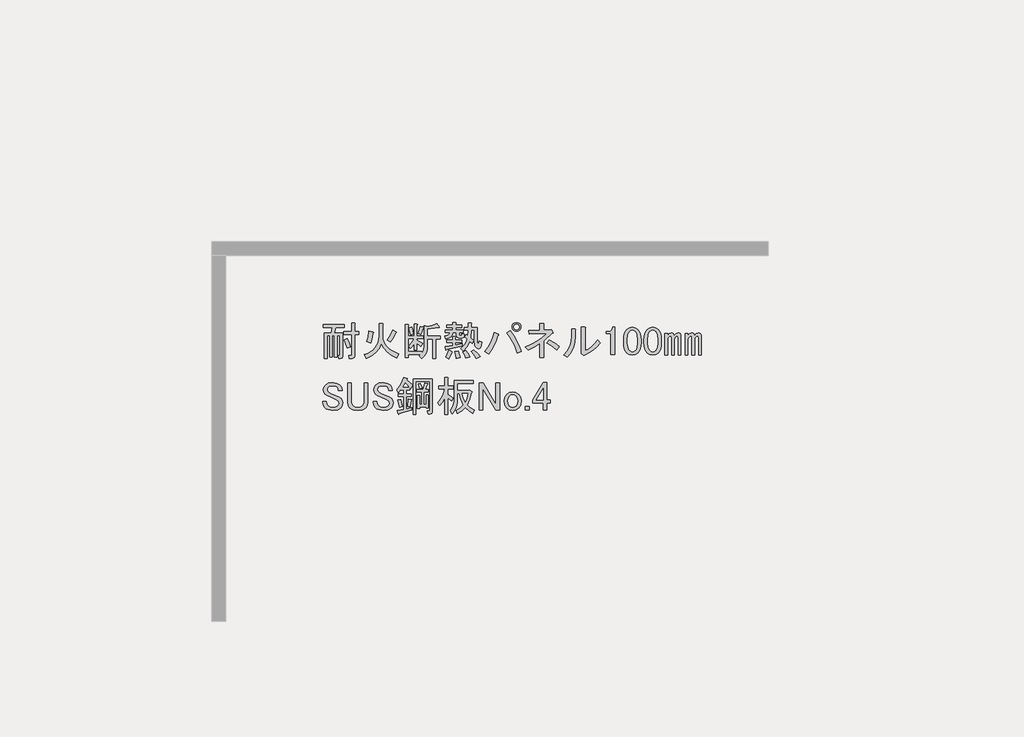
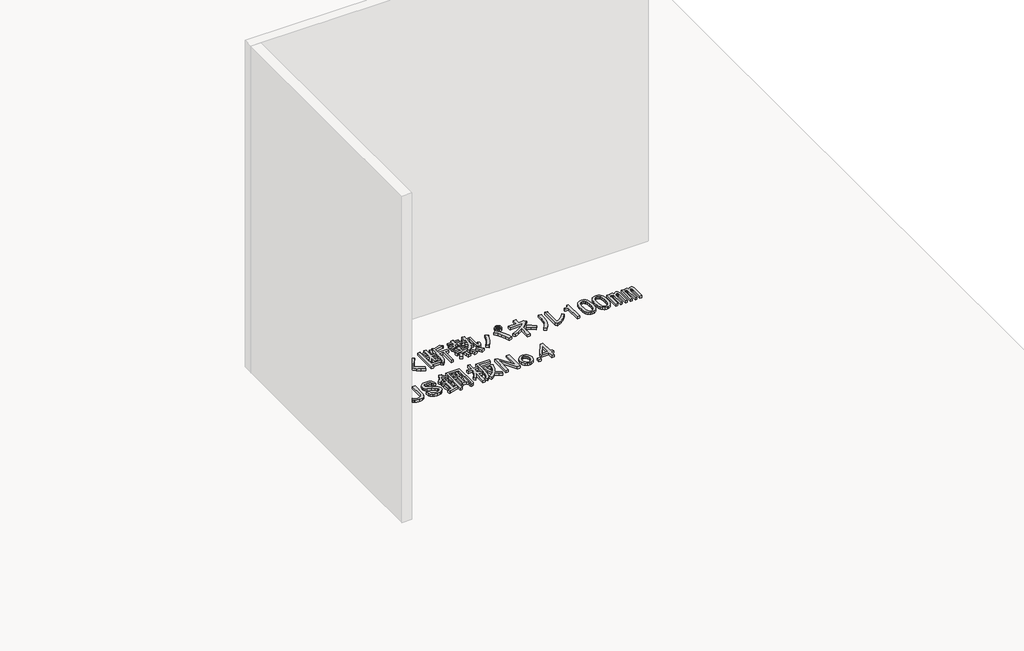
# One storey, part 117 of 117: 1 proxy.
"""IFC4 building model written with IfcOpenShell, lengths in millimetres."""

from ifc_helpers import new_model, si_unit, frame, origin, place, context, project, spatial, polyline, outline, extrude, element, save

model = new_model("IFC4")

# Units and contexts
model_context = context("Model", 3, world=origin())
ifc_project = project(units=[si_unit("LENGTHUNIT", "METRE", prefix="MILLI")], contexts=[model_context])

# Site, building, storey
site = spatial("IfcSite", under=ifc_project)
building = spatial("IfcBuilding", under=site)
storey = spatial("IfcBuildingStorey", under=building, Name="レベル 1", Elevation=500.0)

# Proxy
placement = place(None, origin())
element("IfcBuildingElementProxy", 1, Name="200㎜\u3000MS Pゴシック", ObjectType="200㎜\u3000MS Pゴシック", at=placement, inside=storey, context=model_context, shape_type="SweptSolid", body=[
    extrude(outline(polyline([(72978.5674486, 11229.3142262), (72971.0959694, 11259.7748726), (72960.176115, 11289.0860605), (72982.0158237, 11297.132269), (72994.372501, 11267.5337164), (73001.5566157, 11238.5098931), (72978.5674486, 11229.3142262)])), frame((0.0, 0.0, 500.0), z_axis=(0.0, 0.0, 1.0), x_axis=(1.0, 0.0, 0.0)), (0.0, 0.0, 1.0), 25.0),
    extrude(outline(polyline([(72887.7602388, 11320.121436), (72871.6678219, 11320.121436), (72871.6678219, 11164.9445585), (72852.1270299, 11164.9445585), (72852.1270299, 11320.121436), (72833.7356963, 11320.121436), (72833.7356963, 11152.3005167), (72814.1949043, 11152.3005167), (72814.1949043, 11338.5127697), (72865.9205301, 11338.5127697), (72871.6678219, 11377.5943537), (72804.9992375, 11377.5943537), (72804.9992375, 11399.4340623), (72960.176115, 11399.4340623), (72960.176115, 11377.5943537), (72895.8064473, 11377.5943537), (72885.4613221, 11338.5127697), (72946.3826148, 11338.5127697), (72946.3826148, 11170.6918503), (72942.3595106, 11158.6225376), (72930.2901979, 11154.5994334), (72919.9450727, 11154.5994334), (72915.3472393, 11176.439142), (72922.2439894, 11176.439142), (72925.6923645, 11177.5886004), (72926.8418228, 11181.0369755), (72926.8418228, 11320.121436), (72907.3010308, 11320.121436), (72907.3010308, 11164.9445585), (72887.7602388, 11164.9445585), (72887.7602388, 11320.121436)])), frame((0.0, 0.0, 500.0), z_axis=(0.0, 0.0, 1.0), x_axis=(1.0, 0.0, 0.0)), (0.0, 0.0, 1.0), 25.0),
    extrude(outline(polyline([(72956.72774, 11325.8687278), (72956.72774, 11347.7084365), (73013.0511992, 11347.7084365), (73013.0511992, 11409.7791875), (73034.8909079, 11409.7791875), (73039.7761059, 11407.4802708), (73036.0403663, 11402.8824374), (73036.0403663, 11347.7084365), (73064.7768251, 11347.7084365), (73064.7768251, 11325.8687278), (73036.0403663, 11325.8687278), (73036.0403663, 11172.990767), (73031.4425328, 11159.1972668), (73017.6490326, 11154.5994334), (72994.6598656, 11154.5994334), (72991.2114905, 11176.439142), (73008.4533658, 11176.439142), (73011.9017409, 11177.5886004), (73013.0511992, 11181.0369755), (73013.0511992, 11325.8687278), (72956.72774, 11325.8687278)])), frame((0.0, 0.0, 500.0), z_axis=(0.0, 0.0, 1.0), x_axis=(1.0, 0.0, 0.0)), (0.0, 0.0, 1.0), 25.0),
    extrude(outline(polyline([(73226.8504527, 11261.4990601), (73210.9017181, 11226.6561038), (73187.1941395, 11196.8420278), (73155.7277172, 11172.0568321), (73116.5024509, 11152.3005167), (73102.7089507, 11181.0369755), (73128.032955, 11190.71757), (73149.9804254, 11202.5174784), (73168.5513619, 11216.4367006), (73183.7457645, 11232.4752367), (73195.5636332, 11250.6330866), (73204.0049679, 11270.9102504), (73209.0697688, 11293.3067279), (73210.7580358, 11317.8225193), (73210.7580358, 11408.6297292), (73237.1955779, 11406.3308125), (73240.6439529, 11402.8824374), (73237.1955779, 11397.1351456), (73237.1955779, 11317.8225193), (73238.9916065, 11296.377937), (73244.3796926, 11276.2983364), (73253.3598359, 11257.5837176), (73265.9320367, 11240.2340806), (73282.0962947, 11224.2494254), (73301.8526102, 11209.629752), (73352.1414131, 11184.4853505), (73340.6468295, 11155.7488917), (73301.2060398, 11175.2896837), (73269.0930471, 11199.4283091), (73244.3078514, 11228.1647679), (73226.8504527, 11261.4990601)])), frame((0.0, 0.0, 500.0), z_axis=(0.0, 0.0, 1.0), x_axis=(1.0, 0.0, 0.0)), (0.0, 0.0, 1.0), 25.0),
    extrude(outline(polyline([(73330.3017044, 11337.3633113), (73310.1861832, 11297.9943628), (73293.5190371, 11271.8441853), (73270.5298701, 11286.7871438), (73290.3580266, 11318.3972485), (73308.4619957, 11358.0535617), (73333.7500794, 11345.4095198), (73336.3363607, 11341.6737801), (73330.3017044, 11337.3633113)])), frame((0.0, 0.0, 500.0), z_axis=(0.0, 0.0, 1.0), x_axis=(1.0, 0.0, 0.0)), (0.0, 0.0, 1.0), 25.0),
    extrude(outline(polyline([(73122.2497427, 11276.4420187), (73134.0316908, 11310.6384046), (73137.1927012, 11353.4557283), (73165.92916, 11346.5589781), (73170.5269934, 11342.8232385), (73165.92916, 11338.5127697), (73162.1934204, 11304.0290191), (73150.9862015, 11267.2463519), (73122.2497427, 11276.4420187)])), frame((0.0, 0.0, 500.0), z_axis=(0.0, 0.0, 1.0), x_axis=(1.0, 0.0, 0.0)), (0.0, 0.0, 1.0), 25.0),
    extrude(outline(polyline([(73647.5522095, 11381.0427287), (73645.828022, 11376.4448953), (73638.3565427, 11378.743812), (73561.3428331, 11366.0997701), (73561.3428331, 11316.673061), (73653.2995013, 11316.673061), (73653.2995013, 11294.8333523), (73622.2641258, 11294.8333523), (73622.2641258, 11154.5994334), (73599.2749588, 11154.5994334), (73599.2749588, 11294.8333523), (73561.3428331, 11294.8333523), (73561.3428331, 11245.4066432), (73558.7565518, 11217.6041193), (73550.997708, 11192.8189236), (73538.0663015, 11171.051056), (73519.9623325, 11152.3005167), (73502.7204572, 11171.8413086), (73513.0655823, 11181.0369755), (73423.4078309, 11181.0369755), (73423.4078309, 11159.1972668), (73400.4186638, 11159.1972668), (73400.4186638, 11398.284604), (73422.2583725, 11398.284604), (73427.1435705, 11395.9856873), (73423.4078309, 11391.3878539), (73423.4078309, 11315.5236026), (73465.9377899, 11315.5236026), (73465.9377899, 11402.8824374), (73484.3291235, 11402.8824374), (73489.2143215, 11400.5835207), (73485.4785819, 11395.9856873), (73485.4785819, 11315.5236026), (73529.1579993, 11315.5236026), (73529.1579993, 11297.132269), (73485.4785819, 11297.132269), (73485.4785819, 11287.9366022), (73525.7096242, 11261.4990601), (73511.916124, 11239.6593514), (73485.4785819, 11266.0968935), (73485.4785819, 11213.2218093), (73465.9377899, 11213.2218093), (73465.9377899, 11261.4990601), (73452.7190189, 11241.6709035), (73438.3507895, 11225.8658512), (73425.7067476, 11244.2571848), (73447.5464563, 11268.3958102), (73464.7883316, 11297.132269), (73423.4078309, 11297.132269), (73423.4078309, 11202.8766841), (73521.1117908, 11202.8766841), (73521.1117908, 11189.0831839), (73534.0431973, 11213.2218093), (73538.3536661, 11246.5561015), (73538.3536661, 11391.3878539), (73560.1933748, 11385.6405621), (73596.4013129, 11393.1120414), (73626.8619592, 11406.3308125), (73647.5522095, 11381.0427287)])), frame((0.0, 0.0, 500.0), z_axis=(0.0, 0.0, 1.0), x_axis=(1.0, 0.0, 0.0)), (0.0, 0.0, 1.0), 25.0),
    extrude(outline(polyline([(73493.5247904, 11332.7654779), (73510.7666656, 11385.6405621), (73531.456916, 11379.8932704), (73533.1811035, 11376.7322599), (73529.1579993, 11374.1459786), (73511.916124, 11325.8687278), (73493.5247904, 11332.7654779)])), frame((0.0, 0.0, 500.0), z_axis=(0.0, 0.0, 1.0), x_axis=(1.0, 0.0, 0.0)), (0.0, 0.0, 1.0), 25.0),
    extrude(outline(polyline([(73439.5002478, 11324.7192695), (73426.8562059, 11375.2954369), (73446.3969979, 11382.1921871), (73454.1558418, 11358.0535617), (73459.0410398, 11331.6160196), (73439.5002478, 11324.7192695)])), frame((0.0, 0.0, 500.0), z_axis=(0.0, 0.0, 1.0), x_axis=(1.0, 0.0, 0.0)), (0.0, 0.0, 1.0), 25.0),
    extrude(outline(polyline([(73770.5442532, 11340.8116864), (73745.2561695, 11340.8116864), (73740.6583361, 11323.3542877), (73730.3132109, 11310.0636755), (73714.220794, 11300.9398498), (73692.3810853, 11295.9828107), (73687.7832519, 11315.5236026), (73713.0713356, 11324.1445403), (73720.5428149, 11331.4723373), (73724.5659191, 11340.8116864), (73688.9327102, 11340.8116864), (73688.9327102, 11359.20302), (73742.9572528, 11359.20302), (73742.9572528, 11376.4448953), (73699.2778354, 11376.4448953), (73699.2778354, 11394.8362289), (73742.9572528, 11394.8362289), (73742.9572528, 11413.2275626), (73764.7969614, 11413.2275626), (73769.6821594, 11410.9286459), (73765.9464198, 11406.3308125), (73765.9464198, 11394.8362289), (73808.4763788, 11394.8362289), (73808.4763788, 11376.4448953), (73765.9464198, 11376.4448953), (73765.9464198, 11359.20302), (73818.821504, 11359.20302), (73818.821504, 11340.8116864), (73790.0850452, 11340.8116864), (73790.0850452, 11328.1676445), (73791.5218681, 11322.9950819), (73795.832337, 11321.2708944), (73806.1774621, 11321.2708944), (73809.9132018, 11324.4319049), (73809.6258372, 11333.9149363), (73829.1666292, 11331.6160196), (73826.2929833, 11310.0636755), (73820.9767384, 11304.6755894), (73813.0742122, 11302.8795608), (73788.9355868, 11302.8795608), (73775.1420866, 11307.7647588), (73770.5442532, 11322.4203528), (73770.5442532, 11340.8116864)])), frame((0.0, 0.0, 500.0), z_axis=(0.0, 0.0, 1.0), x_axis=(1.0, 0.0, 0.0)), (0.0, 0.0, 1.0), 25.0),
    extrude(outline(polyline([(73901.5825053, 11358.0535617), (73879.7427966, 11358.0535617), (73875.1449632, 11300.5806441), (73894.6857552, 11282.1893104), (73884.3406301, 11260.3496017), (73868.2482131, 11276.4420187), (73848.9947857, 11238.7972576), (73818.821504, 11206.3250592), (73801.5796287, 11227.0153095), (73816.6662696, 11238.9409399), (73829.7413583, 11254.0275808), (73840.804895, 11272.2752321), (73849.8568795, 11293.683894), (73832.6150042, 11308.6268525), (73840.6612127, 11325.8687278), (73854.4547129, 11315.5236026), (73856.7536296, 11358.0535617), (73829.1666292, 11358.0535617), (73829.1666292, 11376.4448953), (73856.7536296, 11376.4448953), (73856.7536296, 11410.9286459), (73878.5933383, 11410.9286459), (73883.4785363, 11408.6297292), (73879.7427966, 11404.0318957), (73879.7427966, 11376.4448953), (73921.1232973, 11376.4448953), (73921.1232973, 11279.8903937), (73924.5716724, 11255.7517683), (73927.804524, 11253.7402162), (73930.6063287, 11256.9012267), (73934.9167975, 11278.7409354), (73954.4575895, 11271.8441853), (73949.9315973, 11245.0474374), (73942.1009122, 11229.0268616), (73930.9655345, 11223.7824579), (73916.5254639, 11229.3142262), (73909.9879195, 11236.6420232), (73905.318245, 11248.280289), (73901.5825053, 11284.4882271), (73901.5825053, 11358.0535617)])), frame((0.0, 0.0, 500.0), z_axis=(0.0, 0.0, 1.0), x_axis=(1.0, 0.0, 0.0)), (0.0, 0.0, 1.0), 25.0),
    extrude(outline(polyline([(73700.4272937, 11218.9691011), (73698.4157416, 11214.0839031), (73694.680002, 11215.520726), (73688.9327102, 11239.6593514), (73744.1067111, 11247.7055599), (73744.1067111, 11270.6947269), (73700.4272937, 11270.6947269), (73700.4272937, 11289.0860605), (73744.1067111, 11289.0860605), (73744.1067111, 11312.0752276), (73762.4980447, 11312.0752276), (73767.3832427, 11309.7763109), (73763.6475031, 11305.1784775), (73763.6475031, 11289.0860605), (73808.4763788, 11289.0860605), (73808.4763788, 11270.6947269), (73763.6475031, 11270.6947269), (73763.6475031, 11251.1539349), (73814.2236706, 11260.3496017), (73814.2236706, 11244.2571848), (73700.4272937, 11218.9691011)])), frame((0.0, 0.0, 500.0), z_axis=(0.0, 0.0, 1.0), x_axis=(1.0, 0.0, 0.0)), (0.0, 0.0, 1.0), 25.0),
    extrude(outline(polyline([(73898.1341303, 11214.3712677), (73922.8474849, 11193.1062881), (73941.8135477, 11168.3929336), (73915.3760056, 11153.449975), (73896.1225782, 11183.0485276), (73877.4438799, 11202.8766841), (73898.1341303, 11214.3712677)])), frame((0.0, 0.0, 500.0), z_axis=(0.0, 0.0, 1.0), x_axis=(1.0, 0.0, 0.0)), (0.0, 0.0, 1.0), 25.0),
    extrude(outline(polyline([(73839.5117543, 11155.7488917), (73831.1781813, 11180.4622463), (73817.6720456, 11201.7272258), (73838.362296, 11209.7734343), (73855.3168067, 11188.2210902), (73867.0987548, 11164.9445585), (73839.5117543, 11155.7488917)])), frame((0.0, 0.0, 500.0), z_axis=(0.0, 0.0, 1.0), x_axis=(1.0, 0.0, 0.0)), (0.0, 0.0, 1.0), 25.0),
    extrude(outline(polyline([(73738.3594193, 11204.0261425), (73741.8077944, 11199.1409445), (73736.0605026, 11195.979934), (73726.2901067, 11170.4044857), (73715.3702523, 11151.1510583), (73692.3810853, 11162.6456418), (73705.0251271, 11186.209538), (73715.3702523, 11213.2218093), (73738.3594193, 11204.0261425)])), frame((0.0, 0.0, 500.0), z_axis=(0.0, 0.0, 1.0), x_axis=(1.0, 0.0, 0.0)), (0.0, 0.0, 1.0), 25.0),
    extrude(outline(polyline([(73783.1882951, 11208.6239759), (73793.2460557, 11181.32434), (73798.1312537, 11159.1972668), (73769.3947949, 11153.449975), (73766.8085136, 11175.0023191), (73759.0496697, 11205.1756008), (73783.1882951, 11208.6239759)])), frame((0.0, 0.0, 500.0), z_axis=(0.0, 0.0, 1.0), x_axis=(1.0, 0.0, 0.0)), (0.0, 0.0, 1.0), 25.0),
    extrude(outline(polyline([(74206.1889686, 11350.0073532), (74193.5449268, 11352.3062699), (74183.1998016, 11359.20302), (74176.3030515, 11369.5481452), (74174.0041348, 11382.1921871), (74176.3030515, 11394.8362289), (74183.1998016, 11405.1813541), (74193.5449268, 11412.0781042), (74206.1889686, 11414.3770209), (74218.8330105, 11412.0781042), (74229.1781357, 11405.1813541), (74236.0748858, 11394.8362289), (74238.3738025, 11382.1921871), (74236.0748858, 11369.5481452), (74229.1781357, 11359.20302), (74218.8330105, 11352.3062699), (74206.1889686, 11350.0073532)]), holes=[polyline([(74206.1889686, 11361.5019367), (74214.5225417, 11362.9387597), (74221.1319272, 11367.2492285), (74225.442396, 11373.858614), (74226.879219, 11382.1921871), (74225.442396, 11390.5257601), (74221.1319272, 11397.1351456), (74214.5225417, 11401.4456145), (74206.1889686, 11402.8824374), (74197.8553956, 11401.4456145), (74191.2460101, 11397.1351456), (74186.9355412, 11390.5257601), (74185.4987183, 11382.1921871), (74186.9355412, 11373.858614), (74191.2460101, 11367.2492285), (74197.8553956, 11362.9387597), (74206.1889686, 11361.5019367)])]), frame((0.0, 0.0, 500.0), z_axis=(0.0, 0.0, 1.0), x_axis=(1.0, 0.0, 0.0)), (0.0, 0.0, 1.0), 25.0),
    extrude(outline(polyline([(74160.2106345, 11355.754645), (74186.8637001, 11319.0438188), (74209.3499791, 11281.3272167), (74227.6694716, 11242.6048384), (74241.8221775, 11202.8766841), (74210.786802, 11192.531559), (74195.3409554, 11235.6362472), (74177.7398744, 11274.143102), (74157.983559, 11308.0521234), (74136.0720092, 11337.3633113), (74160.2106345, 11355.754645)])), frame((0.0, 0.0, 500.0), z_axis=(0.0, 0.0, 1.0), x_axis=(1.0, 0.0, 0.0)), (0.0, 0.0, 1.0), 25.0),
    extrude(outline(polyline([(74072.8517998, 11329.3171029), (74076.874904, 11323.8571757), (74070.5528831, 11318.9719777), (74058.6272527, 11283.5542922), (74043.5406118, 11249.717112), (74025.2929605, 11217.460437), (74003.8842987, 11186.7842672), (73977.4467566, 11204.0261425), (74000.6514471, 11235.4925649), (74019.689351, 11268.9705394), (74034.5604684, 11304.460066), (74045.2647993, 11341.9611447), (74072.8517998, 11329.3171029)])), frame((0.0, 0.0, 500.0), z_axis=(0.0, 0.0, 1.0), x_axis=(1.0, 0.0, 0.0)), (0.0, 0.0, 1.0), 25.0),
    extrude(outline(polyline([(74449.8741393, 11360.3524784), (74456.7708894, 11362.6513951), (74469.4149312, 11345.4095198), (74470.5643896, 11339.3748634), (74464.8170978, 11337.3633113), (74401.5968885, 11281.0398521), (74401.5968885, 11160.3467251), (74375.1593464, 11160.3467251), (74375.1593464, 11262.6485184), (74334.9283041, 11238.5098931), (74290.0994283, 11216.6701844), (74270.5586363, 11237.3604347), (74316.1059235, 11256.8293855), (74357.3427419, 11279.6030291), (74394.2690915, 11305.6813655), (74426.8849722, 11335.0643946), (74296.9961784, 11329.3171029), (74293.5478034, 11354.6051866), (74375.1593464, 11356.9041033), (74375.1593464, 11408.6297292), (74398.1485134, 11408.6297292), (74404.1831698, 11405.1813541), (74401.5968885, 11399.4340623), (74401.5968885, 11358.0535617), (74449.8741393, 11360.3524784)])), frame((0.0, 0.0, 500.0), z_axis=(0.0, 0.0, 1.0), x_axis=(1.0, 0.0, 0.0)), (0.0, 0.0, 1.0), 25.0),
    extrude(outline(polyline([(74495.8524733, 11216.6701844), (74458.7824415, 11245.9813723), (74425.7355139, 11267.2463519), (74442.9773892, 11289.0860605), (74481.7716085, 11265.8095289), (74515.3932653, 11239.6593514), (74495.8524733, 11216.6701844)])), frame((0.0, 0.0, 500.0), z_axis=(0.0, 0.0, 1.0), x_axis=(1.0, 0.0, 0.0)), (0.0, 0.0, 1.0), 25.0),
    extrude(outline(polyline([(74702.8469334, 11209.7734343), (74727.6321291, 11221.9864292), (74751.4115488, 11239.0846222), (74774.1851924, 11261.0680132), (74795.9530599, 11287.9366022), (74812.0454768, 11266.0968935), (74788.7689452, 11238.2943696), (74762.6187677, 11214.6586322), (74733.5949443, 11195.1896814), (74701.697475, 11179.8875171), (74692.5018082, 11175.2896837), (74674.1104746, 11189.0831839), (74676.4093913, 11194.8304757), (74676.4093913, 11379.8932704), (74700.5480167, 11379.8932704), (74706.2953084, 11376.4448953), (74702.8469334, 11370.6976035), (74702.8469334, 11209.7734343)])), frame((0.0, 0.0, 500.0), z_axis=(0.0, 0.0, 1.0), x_axis=(1.0, 0.0, 0.0)), (0.0, 0.0, 1.0), 25.0),
    extrude(outline(polyline([(74548.8195142, 11178.7380587), (74573.9639157, 11207.9774056), (74591.9242024, 11240.5214452), (74602.7003745, 11276.3701775), (74606.2924318, 11315.5236026), (74606.2924318, 11367.2492285), (74630.4310572, 11367.2492285), (74636.178349, 11363.8008534), (74632.7299739, 11358.0535617), (74632.7299739, 11316.673061), (74628.9223931, 11270.9102504), (74617.4996507, 11230.17632), (74598.4617468, 11194.4712699), (74571.8086812, 11163.7951002), (74548.8195142, 11178.7380587)])), frame((0.0, 0.0, 500.0), z_axis=(0.0, 0.0, 1.0), x_axis=(1.0, 0.0, 0.0)), (0.0, 0.0, 1.0), 25.0),
    extrude(outline(polyline([(74891.3581031, 11356.9041033), (74899.4043116, 11367.8239577), (74902.8526866, 11379.8932704), (74916.6461869, 11379.8932704), (74916.6461869, 11181.0369755), (74890.2086448, 11181.0369755), (74890.2086448, 11333.9149363), (74855.7248942, 11333.9149363), (74855.7248942, 11347.7084365), (74866.0700194, 11347.7084365), (74880.4382488, 11350.0073532), (74891.3581031, 11356.9041033)])), frame((0.0, 0.0, 500.0), z_axis=(0.0, 0.0, 1.0), x_axis=(1.0, 0.0, 0.0)), (0.0, 0.0, 1.0), 25.0),
    extrude(outline(polyline([(74982.1653129, 11290.2355189), (74983.6021359, 11313.7994151), (74987.9126047, 11333.9149363), (74995.0967194, 11350.5820824), (75005.15448, 11363.8008534), (75023.258449, 11375.8701661), (75045.3855223, 11379.8932704), (75067.5125956, 11375.8701661), (75085.6165646, 11363.8008534), (75095.6743252, 11350.5820824), (75102.8584399, 11333.9149363), (75107.1689087, 11313.7994151), (75108.6057317, 11290.2355189), (75108.6057317, 11267.2463519), (75107.1689087, 11244.1853437), (75102.8584399, 11224.4290282), (75095.6743252, 11207.9774056), (75085.6165646, 11194.8304757), (75067.5125956, 11182.761163), (75045.3855223, 11178.7380587), (75023.258449, 11182.761163), (75005.15448, 11194.8304757), (74995.0967194, 11207.9774056), (74987.9126047, 11224.4290282), (74983.6021359, 11244.1853437), (74982.1653129, 11267.2463519), (74982.1653129, 11290.2355189)]), holes=[polyline([(75045.3855223, 11358.0535617), (75034.4656679, 11355.754645), (75024.695272, 11348.8578948), (75018.1577276, 11339.7340692), (75013.488053, 11327.3055507), (75009.7523134, 11292.5344356), (75009.7523134, 11266.0968935), (75013.7754176, 11231.9005075), (75018.8042979, 11219.3283068), (75025.8447303, 11209.7734343), (75035.3277617, 11202.8766841), (75045.3855223, 11200.5777674), (75056.3053766, 11202.8766841), (75066.0757726, 11209.7734343), (75072.613317, 11218.8972599), (75077.2829916, 11231.3257784), (75081.0187312, 11266.0968935), (75081.0187312, 11292.5344356), (75077.2829916, 11327.3055507), (75072.613317, 11339.7340692), (75066.0757726, 11348.8578948), (75056.3053766, 11355.754645), (75045.3855223, 11358.0535617)])]), frame((0.0, 0.0, 500.0), z_axis=(0.0, 0.0, 1.0), x_axis=(1.0, 0.0, 0.0)), (0.0, 0.0, 1.0), 25.0),
    extrude(outline(polyline([(75129.295982, 11290.2355189), (75130.7328049, 11313.7994151), (75135.0432737, 11333.9149363), (75142.2273884, 11350.5820824), (75152.285149, 11363.8008534), (75170.3891181, 11375.8701661), (75192.5161914, 11379.8932704), (75214.6432646, 11375.8701661), (75232.7472337, 11363.8008534), (75242.8049943, 11350.5820824), (75249.989109, 11333.9149363), (75254.2995778, 11313.7994151), (75255.7364007, 11290.2355189), (75255.7364007, 11267.2463519), (75254.2995778, 11244.1853437), (75249.989109, 11224.4290282), (75242.8049943, 11207.9774056), (75232.7472337, 11194.8304757), (75214.6432646, 11182.761163), (75192.5161914, 11178.7380587), (75170.3891181, 11182.761163), (75152.285149, 11194.8304757), (75142.2273884, 11207.9774056), (75135.0432737, 11224.4290282), (75130.7328049, 11244.1853437), (75129.295982, 11267.2463519), (75129.295982, 11290.2355189)]), holes=[polyline([(75192.5161914, 11358.0535617), (75181.596337, 11355.754645), (75171.825941, 11348.8578948), (75165.2883966, 11339.7340692), (75160.6187221, 11327.3055507), (75156.8829824, 11292.5344356), (75156.8829824, 11266.0968935), (75160.9060867, 11231.9005075), (75165.934967, 11219.3283068), (75172.9753994, 11209.7734343), (75182.4584308, 11202.8766841), (75192.5161914, 11200.5777674), (75203.4360457, 11202.8766841), (75213.2064417, 11209.7734343), (75219.7439861, 11218.8972599), (75224.4136606, 11231.3257784), (75228.1494003, 11266.0968935), (75228.1494003, 11292.5344356), (75224.4136606, 11327.3055507), (75219.7439861, 11339.7340692), (75213.2064417, 11348.8578948), (75203.4360457, 11355.754645), (75192.5161914, 11358.0535617)])]), frame((0.0, 0.0, 500.0), z_axis=(0.0, 0.0, 1.0), x_axis=(1.0, 0.0, 0.0)), (0.0, 0.0, 1.0), 25.0),
    extrude(outline(polyline([(75300.5652764, 11178.7380587), (75281.0244845, 11178.7380587), (75281.0244845, 11336.213853), (75300.5652764, 11336.213853), (75300.5652764, 11318.9719777), (75312.6345891, 11334.4896654), (75325.8533602, 11339.662228), (75335.049027, 11338.2254051), (75341.9457771, 11333.9149363), (75348.8425272, 11320.121436), (75361.7739337, 11334.77703), (75375.2800693, 11339.662228), (75383.6136424, 11338.2254051), (75390.2230279, 11333.9149363), (75395.3955905, 11325.2939986), (75397.119778, 11313.2246859), (75397.119778, 11178.7380587), (75377.578986, 11178.7380587), (75377.578986, 11302.8795608), (75374.9927047, 11312.3625922), (75367.2338609, 11315.5236026), (75356.8887357, 11310.9257692), (75350.8540793, 11302.3048316), (75348.8425272, 11292.5344356), (75348.8425272, 11178.7380587), (75329.3017352, 11178.7380587), (75329.3017352, 11302.8795608), (75326.715454, 11312.3625922), (75318.9566101, 11315.5236026), (75308.6114849, 11310.9257692), (75302.5768286, 11302.3048316), (75300.5652764, 11292.5344356), (75300.5652764, 11178.7380587)])), frame((0.0, 0.0, 500.0), z_axis=(0.0, 0.0, 1.0), x_axis=(1.0, 0.0, 0.0)), (0.0, 0.0, 1.0), 25.0),
    extrude(outline(polyline([(75522.4107384, 11339.662228), (75530.7443114, 11338.2254051), (75537.353697, 11333.9149363), (75542.5262595, 11325.2939986), (75544.2504471, 11313.2246859), (75544.2504471, 11178.7380587), (75524.7096551, 11178.7380587), (75524.7096551, 11302.8795608), (75522.1233738, 11312.3625922), (75514.3645299, 11315.5236026), (75504.0194048, 11310.9257692), (75497.9847484, 11302.3048316), (75495.9731963, 11292.5344356), (75495.9731963, 11178.7380587), (75476.4324043, 11178.7380587), (75476.4324043, 11302.8795608), (75473.846123, 11312.3625922), (75466.0872791, 11315.5236026), (75455.742154, 11310.9257692), (75449.7074976, 11302.3048316), (75447.6959455, 11292.5344356), (75447.6959455, 11178.7380587), (75428.1551535, 11178.7380587), (75428.1551535, 11336.213853), (75447.6959455, 11336.213853), (75447.6959455, 11318.9719777), (75459.7652582, 11334.4896654), (75472.9840292, 11339.662228), (75482.1796961, 11338.2254051), (75489.0764462, 11333.9149363), (75495.9731963, 11320.121436), (75508.9046028, 11334.77703), (75522.4107384, 11339.662228)])), frame((0.0, 0.0, 500.0), z_axis=(0.0, 0.0, 1.0), x_axis=(1.0, 0.0, 0.0)), (0.0, 0.0, 1.0), 25.0),
    extrude(outline(polyline([(72807.2981542, 10924.7192695), (72811.3212584, 10945.1221552), (72823.3905711, 10962.6513951), (72843.7934569, 10974.7207078), (72872.8172803, 10978.743812), (72904.1400204, 10974.1459786), (72926.8418228, 10960.3524784), (72938.9111355, 10942.8232385), (72942.9342397, 10922.4203528), (72916.4966976, 10922.4203528), (72914.1977809, 10935.0643946), (72907.3010308, 10945.4095198), (72894.0822598, 10953.1683637), (72875.116197, 10955.754645), (72854.7133112, 10953.4557283), (72841.7819048, 10946.5589781), (72835.7472484, 10937.9380405), (72833.7356963, 10928.1676445), (72838.3335297, 10913.2246859), (72859.02378, 10901.7301024), (72918.7956143, 10875.2925603), (72936.0374896, 10863.7979768), (72945.520521, 10850.0044766), (72948.6815315, 10833.9120596), (72944.6584273, 10812.6470801), (72932.5891146, 10794.8304757), (72922.6031951, 10787.2871552), (72909.8873121, 10781.8990692), (72876.2656553, 10777.5886004), (72842.6439985, 10782.761163), (72829.0660217, 10789.2268662), (72817.6432794, 10798.2788507), (72806.4360604, 10816.6701844), (72802.7003208, 10841.9582681), (72829.1378629, 10841.9582681), (72831.4367796, 10824.1416637), (72838.3335297, 10812.072351), (72854.4259466, 10802.5893196), (72877.4151137, 10799.4283091), (72898.3927286, 10802.301955), (72913.0483226, 10810.9228926), (72919.9450727, 10820.1185594), (72922.2439894, 10829.3142262), (72920.5198019, 10838.7972576), (72915.3472393, 10846.5561015), (72896.9559057, 10858.050685), (72867.0699885, 10871.8441853), (72833.7356963, 10886.7871438), (72817.6432794, 10897.132269), (72809.8844355, 10909.2015817), (72807.2981542, 10924.7192695)])), frame((0.0, 0.0, 500.0), z_axis=(0.0, 0.0, 1.0), x_axis=(1.0, 0.0, 0.0)), (0.0, 0.0, 1.0), 25.0),
    extrude(outline(polyline([(72982.7054987, 10976.4448953), (73009.1430408, 10976.4448953), (73009.1430408, 10838.5098931), (73011.7293221, 10823.8542991), (73019.488166, 10812.072351), (73035.0058537, 10802.5893196), (73056.2708332, 10799.4283091), (73077.5358128, 10802.5893196), (73093.0535005, 10812.072351), (73100.8123444, 10823.8542991), (73103.3986257, 10838.5098931), (73103.3986257, 10976.4448953), (73129.8361678, 10976.4448953), (73129.8361678, 10837.3604347), (73125.8130635, 10814.3712677), (73113.7437508, 10795.979934), (73103.2549434, 10787.9337256), (73090.1798546, 10782.1864338), (73056.2708332, 10777.5886004), (73022.3618119, 10782.1864338), (73009.2867231, 10787.9337256), (72998.7979156, 10795.979934), (72986.7286029, 10814.3712677), (72982.7054987, 10837.3604347), (72982.7054987, 10976.4448953)])), frame((0.0, 0.0, 500.0), z_axis=(0.0, 0.0, 1.0), x_axis=(1.0, 0.0, 0.0)), (0.0, 0.0, 1.0), 25.0),
    extrude(outline(polyline([(73172.1822135, 10924.7192695), (73176.2053177, 10945.1221552), (73188.2746304, 10962.6513951), (73208.6775161, 10974.7207078), (73237.7013395, 10978.743812), (73269.0240796, 10974.1459786), (73291.7258821, 10960.3524784), (73303.7951948, 10942.8232385), (73307.818299, 10922.4203528), (73281.3807569, 10922.4203528), (73279.0818402, 10935.0643946), (73272.1850901, 10945.4095198), (73258.966319, 10953.1683637), (73240.0002562, 10955.754645), (73219.5973705, 10953.4557283), (73206.665964, 10946.5589781), (73200.6313077, 10937.9380405), (73198.6197556, 10928.1676445), (73203.217589, 10913.2246859), (73223.9078393, 10901.7301024), (73283.6796736, 10875.2925603), (73300.9215489, 10863.7979768), (73310.4045803, 10850.0044766), (73313.5655908, 10833.9120596), (73309.5424865, 10812.6470801), (73297.4731738, 10794.8304757), (73287.4872544, 10787.2871552), (73274.7713714, 10781.8990692), (73241.1497146, 10777.5886004), (73207.5280578, 10782.761163), (73193.950081, 10789.2268662), (73182.5273386, 10798.2788507), (73171.3201197, 10816.6701844), (73167.5843801, 10841.9582681), (73194.0219222, 10841.9582681), (73196.3208389, 10824.1416637), (73203.217589, 10812.072351), (73219.3100059, 10802.5893196), (73242.2991729, 10799.4283091), (73263.2767879, 10802.301955), (73277.9323819, 10810.9228926), (73284.829132, 10820.1185594), (73287.1280487, 10829.3142262), (73285.4038611, 10838.7972576), (73280.2312986, 10846.5561015), (73261.8399649, 10858.050685), (73231.9540478, 10871.8441853), (73198.6197556, 10886.7871438), (73182.5273386, 10897.132269), (73174.7684948, 10909.2015817), (73172.1822135, 10924.7192695)])), frame((0.0, 0.0, 500.0), z_axis=(0.0, 0.0, 1.0), x_axis=(1.0, 0.0, 0.0)), (0.0, 0.0, 1.0), 25.0),
    extrude(outline(polyline([(73441.8451429, 10937.3633113), (73400.4646422, 10981.0427287), (73378.6249335, 10941.9611447), (73433.7989344, 10941.9611447), (73433.7989344, 10923.5698111), (73407.3613923, 10923.5698111), (73407.3613923, 10894.8333523), (73445.2935179, 10894.8333523), (73445.2935179, 10876.4420187), (73407.3613923, 10876.4420187), (73407.3613923, 10789.0831839), (73446.4429763, 10799.4283091), (73448.741893, 10779.8875171), (73356.7852248, 10754.5994334), (73354.4863081, 10748.8521416), (73349.8884747, 10752.3005167), (73342.9917246, 10775.2896837), (73387.8206003, 10784.4853505), (73387.8206003, 10876.4420187), (73349.8884747, 10876.4420187), (73349.8884747, 10894.8333523), (73387.8206003, 10894.8333523), (73387.8206003, 10923.5698111), (73365.9808916, 10923.5698111), (73351.037933, 10905.1784775), (73338.3938912, 10925.8687278), (73366.5556208, 10963.5134888), (73391.2689754, 11014.3770209), (73413.1086841, 11008.6297292), (73416.5570591, 11004.8939895), (73410.8097674, 11002.8824374), (73409.660309, 10999.4340623), (73454.4891847, 10961.5019367), (73441.8451429, 10937.3633113)])), frame((0.0, 0.0, 500.0), z_axis=(0.0, 0.0, 1.0), x_axis=(1.0, 0.0, 0.0)), (0.0, 0.0, 1.0), 25.0),
    extrude(outline(polyline([(73509.6631856, 10974.1459786), (73516.8473003, 10958.9156554), (73522.3072275, 10938.5127697), (73505.0653522, 10932.7654779), (73493.5707687, 10969.5481452), (73509.6631856, 10974.1459786)])), frame((0.0, 0.0, 500.0), z_axis=(0.0, 0.0, 1.0), x_axis=(1.0, 0.0, 0.0)), (0.0, 0.0, 1.0), 25.0),
    extrude(outline(polyline([(73562.5382698, 10972.9965202), (73565.1245511, 10969.5481452), (73559.0898948, 10966.0997701), (73546.4458529, 10928.1676445), (73567.1361032, 10928.1676445), (73567.1361032, 10909.7763109), (73536.1007277, 10909.7763109), (73536.1007277, 10821.2680178), (73551.0436863, 10821.2680178), (73551.0436863, 10889.0860605), (73567.1361032, 10889.0860605), (73567.1361032, 10794.8304757), (73551.0436863, 10794.8304757), (73551.0436863, 10802.8766841), (73505.0653522, 10802.8766841), (73505.0653522, 10790.2326423), (73488.9729353, 10790.2326423), (73488.9729353, 10886.7871438), (73505.0653522, 10886.7871438), (73505.0653522, 10821.2680178), (73520.0083108, 10821.2680178), (73520.0083108, 10909.7763109), (73484.3751019, 10909.7763109), (73484.3751019, 10928.1676445), (73530.353436, 10928.1676445), (73540.6985611, 10977.5943537), (73562.5382698, 10972.9965202)])), frame((0.0, 0.0, 500.0), z_axis=(0.0, 0.0, 1.0), x_axis=(1.0, 0.0, 0.0)), (0.0, 0.0, 1.0), 25.0),
    extrude(outline(polyline([(73456.7881014, 11006.3308125), (73597.0220204, 11006.3308125), (73597.0220204, 10766.0940169), (73593.2862807, 10754.8867979), (73582.0790618, 10751.1510583), (73565.9866449, 10751.1510583), (73561.3888115, 10772.990767), (73572.883395, 10772.990767), (73576.33177, 10774.1402253), (73577.4812284, 10777.5886004), (73577.4812284, 10987.9394788), (73476.3288934, 10987.9394788), (73476.3288934, 10748.8521416), (73456.7881014, 10748.8521416), (73456.7881014, 11006.3308125)])), frame((0.0, 0.0, 500.0), z_axis=(0.0, 0.0, 1.0), x_axis=(1.0, 0.0, 0.0)), (0.0, 0.0, 1.0), 25.0),
    extrude(outline(polyline([(73445.2935179, 10858.050685), (73447.8797992, 10854.8896746), (73444.1440596, 10852.3033933), (73436.0978511, 10805.1756008), (73417.7065175, 10807.4745175), (73423.4538092, 10861.4990601), (73445.2935179, 10858.050685)])), frame((0.0, 0.0, 500.0), z_axis=(0.0, 0.0, 1.0), x_axis=(1.0, 0.0, 0.0)), (0.0, 0.0, 1.0), 25.0),
    extrude(outline(polyline([(73368.2798083, 10856.9012267), (73379.7743918, 10805.1756008), (73359.0841415, 10799.4283091), (73347.589558, 10851.1539349), (73368.2798083, 10856.9012267)])), frame((0.0, 0.0, 500.0), z_axis=(0.0, 0.0, 1.0), x_axis=(1.0, 0.0, 0.0)), (0.0, 0.0, 1.0), 25.0),
    extrude(outline(polyline([(73768.2913148, 10777.5886004), (73797.0277736, 10794.8304757), (73818.8674823, 10816.6701844), (73801.0508779, 10858.6254142), (73791.2804819, 10899.4311857), (73778.63644, 10899.4311857), (73778.63644, 10875.2925603), (73776.193841, 10833.5528539), (73768.866044, 10799.1409445), (73756.653049, 10772.0568321), (73739.554856, 10752.3005167), (73725.7613558, 10775.2896837), (73738.8364446, 10792.6752413), (73748.1757937, 10814.9459968), (73753.7794031, 10842.1019504), (73755.647273, 10874.143102), (73755.647273, 10994.8362289), (73892.4328169, 10994.8362289), (73892.4328169, 10972.9965202), (73778.63644, 10972.9965202), (73778.63644, 10921.2708944), (73857.9490663, 10921.2708944), (73863.6963581, 10927.0181862), (73883.23715, 10913.2246859), (73884.673973, 10909.4889463), (73879.788775, 10905.1784775), (73867.4320977, 10858.6254142), (73848.7533995, 10817.8196427), (73867.7194623, 10799.4283091), (73899.329567, 10781.0369755), (73890.1339002, 10756.8983501), (73862.2595351, 10772.990767), (73833.8104409, 10798.2788507), (73809.3844509, 10773.8528608), (73777.4869817, 10753.449975), (73768.2913148, 10777.5886004)]), holes=[polyline([(73813.1201906, 10899.4311857), (73821.166399, 10866.3842581), (73833.8104409, 10838.5098931), (73846.4544828, 10864.6600706), (73854.5006912, 10899.4311857), (73813.1201906, 10899.4311857)])]), frame((0.0, 0.0, 500.0), z_axis=(0.0, 0.0, 1.0), x_axis=(1.0, 0.0, 0.0)), (0.0, 0.0, 1.0), 25.0),
    extrude(outline(polyline([(73685.5303135, 10748.8521416), (73685.5303135, 10868.3958102), (73667.713709, 10834.1994242), (73648.7476462, 10812.072351), (73637.2530627, 10832.7626013), (73654.494938, 10855.4644037), (73668.2884382, 10879.8903937), (73678.6335634, 10906.0405712), (73685.5303135, 10933.9149363), (73644.1498128, 10933.9149363), (73644.1498128, 10955.754645), (73685.5303135, 10955.754645), (73685.5303135, 11015.5264793), (73707.3700222, 11015.5264793), (73712.2552202, 11013.2275626), (73708.5194805, 11008.6297292), (73708.5194805, 10955.754645), (73746.4516061, 10955.754645), (73746.4516061, 10933.9149363), (73708.5194805, 10933.9149363), (73708.5194805, 10893.683894), (73746.4516061, 10867.2463519), (73736.106481, 10844.2571848), (73708.5194805, 10867.2463519), (73708.5194805, 10748.8521416), (73685.5303135, 10748.8521416)])), frame((0.0, 0.0, 500.0), z_axis=(0.0, 0.0, 1.0), x_axis=(1.0, 0.0, 0.0)), (0.0, 0.0, 1.0), 25.0),
    extrude(outline(polyline([(73936.1122342, 10976.4448953), (73964.848693, 10976.4448953), (74056.8053612, 10821.2680178), (74056.8053612, 10976.4448953), (74083.2429033, 10976.4448953), (74083.2429033, 10779.8875171), (74054.5064445, 10779.8875171), (73962.5497763, 10935.0643946), (73962.5497763, 10779.8875171), (73936.1122342, 10779.8875171), (73936.1122342, 10976.4448953)])), frame((0.0, 0.0, 500.0), z_axis=(0.0, 0.0, 1.0), x_axis=(1.0, 0.0, 0.0)), (0.0, 0.0, 1.0), 25.0),
    extrude(outline(polyline([(74116.3932822, 10844.2571848), (74121.2784802, 10871.5568207), (74135.9340742, 10893.683894), (74155.1875015, 10906.6153004), (74178.4640332, 10910.9257692), (74201.7405648, 10906.6153004), (74220.9939922, 10893.683894), (74235.6495862, 10871.5568207), (74240.5347842, 10844.2571848), (74235.6495862, 10816.957549), (74220.9939922, 10794.8304757), (74201.7405648, 10781.8990692), (74178.4640332, 10777.5886004), (74155.1875015, 10781.8990692), (74135.9340742, 10794.8304757), (74121.2784802, 10816.957549), (74116.3932822, 10844.2571848)]), holes=[polyline([(74178.4640332, 10890.2355189), (74165.8199913, 10887.9366022), (74155.4748661, 10881.0398521), (74145.129741, 10864.9474352), (74141.6813659, 10844.2571848), (74144.8423764, 10823.8542991), (74154.3254078, 10808.6239759), (74165.5326267, 10800.865132), (74178.4640332, 10798.2788507), (74191.3954396, 10800.865132), (74202.6026586, 10808.6239759), (74212.08569, 10823.8542991), (74215.2467004, 10844.2571848), (74211.7983254, 10864.9474352), (74201.4532002, 10881.0398521), (74191.1080751, 10887.9366022), (74178.4640332, 10890.2355189)])]), frame((0.0, 0.0, 500.0), z_axis=(0.0, 0.0, 1.0), x_axis=(1.0, 0.0, 0.0)), (0.0, 0.0, 1.0), 25.0),
    extrude(outline(polyline([(74271.064398, 10805.1756008), (74297.5019401, 10805.1756008), (74297.5019401, 10779.8875171), (74271.064398, 10779.8875171), (74271.064398, 10805.1756008)])), frame((0.0, 0.0, 500.0), z_axis=(0.0, 0.0, 1.0), x_axis=(1.0, 0.0, 0.0)), (0.0, 0.0, 1.0), 25.0),
    extrude(outline(polyline([(74400.0336251, 10978.743812), (74426.4711672, 10978.743812), (74426.4711672, 10852.3033933), (74450.6097926, 10852.3033933), (74450.6097926, 10830.4636846), (74426.4711672, 10830.4636846), (74426.4711672, 10779.8875171), (74400.0336251, 10779.8875171), (74400.0336251, 10830.4636846), (74323.0199155, 10830.4636846), (74323.0199155, 10853.4528516), (74400.0336251, 10978.743812)]), holes=[polyline([(74400.0336251, 10936.213853), (74348.3079993, 10852.3033933), (74400.0336251, 10852.3033933), (74400.0336251, 10936.213853)])]), frame((0.0, 0.0, 500.0), z_axis=(0.0, 0.0, 1.0), x_axis=(1.0, 0.0, 0.0)), (0.0, 0.0, 1.0), 25.0),
])

save(model, "model.ifc")
